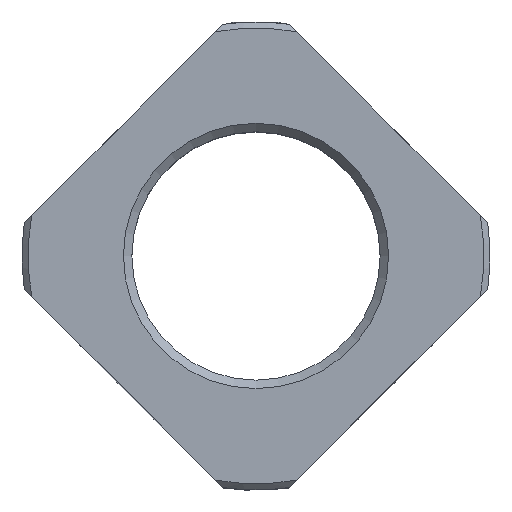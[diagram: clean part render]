
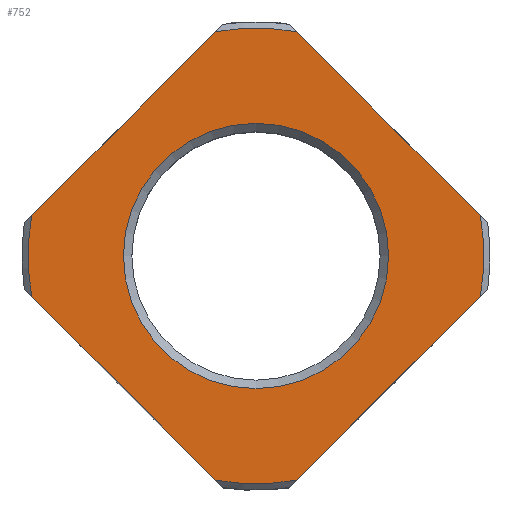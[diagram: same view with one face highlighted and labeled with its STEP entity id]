
A CAD part, top view. The second image highlights one B-rep face of the part: STEP entity #752.
In plain terms, the highlighted planar face has unit normal (0, 0, 1).
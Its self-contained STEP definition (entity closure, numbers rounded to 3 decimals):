
#35=PLANE('',#816);
#56=LINE('',#1147,#106);
#57=LINE('',#1151,#107);
#58=LINE('',#1155,#108);
#59=LINE('',#1159,#109);
#106=VECTOR('',#914,1000.);
#107=VECTOR('',#917,1000.);
#108=VECTOR('',#920,1000.);
#109=VECTOR('',#923,1000.);
#192=ORIENTED_EDGE('',*,*,#412,.F.);
#193=ORIENTED_EDGE('',*,*,#413,.T.);
#194=ORIENTED_EDGE('',*,*,#414,.F.);
#195=ORIENTED_EDGE('',*,*,#415,.T.);
#196=ORIENTED_EDGE('',*,*,#416,.F.);
#197=ORIENTED_EDGE('',*,*,#417,.T.);
#198=ORIENTED_EDGE('',*,*,#418,.F.);
#199=ORIENTED_EDGE('',*,*,#419,.T.);
#200=ORIENTED_EDGE('',*,*,#420,.T.);
#412=EDGE_CURVE('',#523,#524,#596,.T.);
#413=EDGE_CURVE('',#523,#525,#56,.T.);
#414=EDGE_CURVE('',#526,#525,#597,.T.);
#415=EDGE_CURVE('',#526,#527,#57,.T.);
#416=EDGE_CURVE('',#528,#527,#598,.T.);
#417=EDGE_CURVE('',#528,#529,#58,.T.);
#418=EDGE_CURVE('',#530,#529,#599,.T.);
#419=EDGE_CURVE('',#530,#524,#59,.T.);
#420=EDGE_CURVE('',#531,#531,#600,.T.);
#523=VERTEX_POINT('',#1145);
#524=VERTEX_POINT('',#1146);
#525=VERTEX_POINT('',#1148);
#526=VERTEX_POINT('',#1150);
#527=VERTEX_POINT('',#1152);
#528=VERTEX_POINT('',#1154);
#529=VERTEX_POINT('',#1156);
#530=VERTEX_POINT('',#1158);
#531=VERTEX_POINT('',#1161);
#596=CIRCLE('',#817,14.61);
#597=CIRCLE('',#818,14.61);
#598=CIRCLE('',#819,14.61);
#599=CIRCLE('',#820,14.61);
#600=CIRCLE('',#821,8.5);
#634=EDGE_LOOP('',(#192,#193,#194,#195,#196,#197,#198,#199));
#635=EDGE_LOOP('',(#200));
#690=FACE_BOUND('',#634,.T.);
#691=FACE_BOUND('',#635,.T.);
#752=ADVANCED_FACE('',(#690,#691),#35,.F.);
#816=AXIS2_PLACEMENT_3D('',#1143,#910,#911);
#817=AXIS2_PLACEMENT_3D('',#1144,#912,#913);
#818=AXIS2_PLACEMENT_3D('',#1149,#915,#916);
#819=AXIS2_PLACEMENT_3D('',#1153,#918,#919);
#820=AXIS2_PLACEMENT_3D('',#1157,#921,#922);
#821=AXIS2_PLACEMENT_3D('',#1160,#924,#925);
#910=DIRECTION('',(0.,0.,-1.));
#911=DIRECTION('',(-1.,0.,0.));
#912=DIRECTION('',(0.,0.,-1.));
#913=DIRECTION('',(-1.,0.,0.));
#914=DIRECTION('',(-0.707,-0.707,0.));
#915=DIRECTION('',(0.,0.,-1.));
#916=DIRECTION('',(-1.,0.,0.));
#917=DIRECTION('',(0.707,-0.707,0.));
#918=DIRECTION('',(0.,0.,-1.));
#919=DIRECTION('',(-1.,0.,0.));
#920=DIRECTION('',(0.707,0.707,0.));
#921=DIRECTION('',(0.,0.,-1.));
#922=DIRECTION('',(-1.,0.,0.));
#923=DIRECTION('',(-0.707,0.707,0.));
#924=DIRECTION('',(0.,0.,-1.));
#925=DIRECTION('',(-1.,0.,0.));
#1143=CARTESIAN_POINT('',(0.,0.,13.));
#1144=CARTESIAN_POINT('',(0.,0.,13.));
#1145=CARTESIAN_POINT('',(-2.592,14.378,13.));
#1146=CARTESIAN_POINT('',(2.592,14.378,13.));
#1147=CARTESIAN_POINT('',(0.,16.971,13.));
#1148=CARTESIAN_POINT('',(-14.378,2.592,13.));
#1149=CARTESIAN_POINT('',(0.,0.,13.));
#1150=CARTESIAN_POINT('',(-14.378,-2.592,13.));
#1151=CARTESIAN_POINT('',(-16.971,0.,13.));
#1152=CARTESIAN_POINT('',(-2.592,-14.378,13.));
#1153=CARTESIAN_POINT('',(0.,0.,13.));
#1154=CARTESIAN_POINT('',(2.592,-14.378,13.));
#1155=CARTESIAN_POINT('',(0.,-16.971,13.));
#1156=CARTESIAN_POINT('',(14.378,-2.592,13.));
#1157=CARTESIAN_POINT('',(0.,0.,13.));
#1158=CARTESIAN_POINT('',(14.378,2.592,13.));
#1159=CARTESIAN_POINT('',(16.971,0.,13.));
#1160=CARTESIAN_POINT('',(0.,0.,13.));
#1161=CARTESIAN_POINT('',(-8.5,0.,13.));
